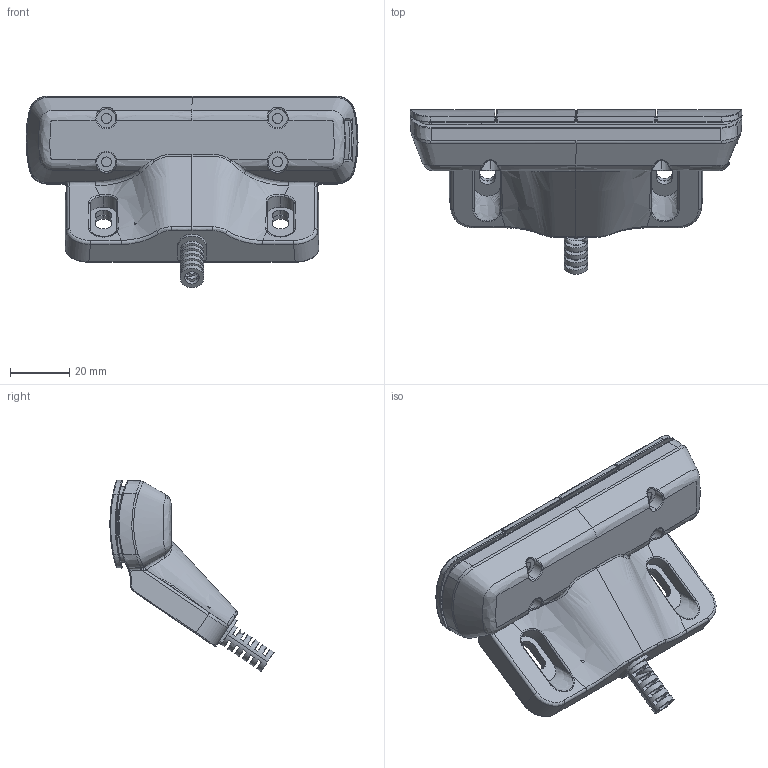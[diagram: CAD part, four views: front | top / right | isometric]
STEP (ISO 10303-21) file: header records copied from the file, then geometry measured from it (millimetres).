
FILE_DESCRIPTION (( 'STEP AP203' ), '1' );
FILE_NAME ('JCHT35K24C.STEP', '2019-12-03T06:17:30', ( '' ), ( '' ), 'SwSTEP 2.0', 'SolidWorks 2018', '' );
FILE_SCHEMA (( 'CONFIG_CONTROL_DESIGN' ));
Products named in the file (1): JCHT35K24C
Bounding box: 112.48 x 55.63 x 64.83 mm (x, y, z)
Volume: 83861 mm3; surface area: 46176.9 mm2
Topology: 3 solids, 19 shells, 1241 faces, 3427 edges, 2210 vertices
Faces by surface type: plane 607, cylinder 292, bspline 224, cone 71, sphere 28, torus 19
Entity records: 59406 total; most frequent: CARTESIAN_POINT 30065, ORIENTED_EDGE 6790, DIRECTION 5183, EDGE_CURVE 3395, VERTEX_POINT 2194, VECTOR 1737, LINE 1737, AXIS2_PLACEMENT_3D 1723
